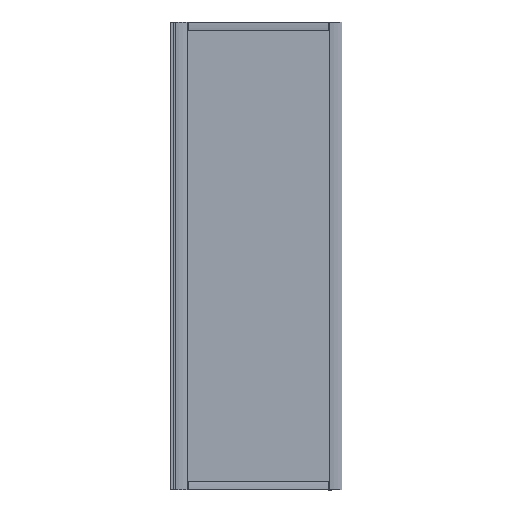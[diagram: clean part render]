
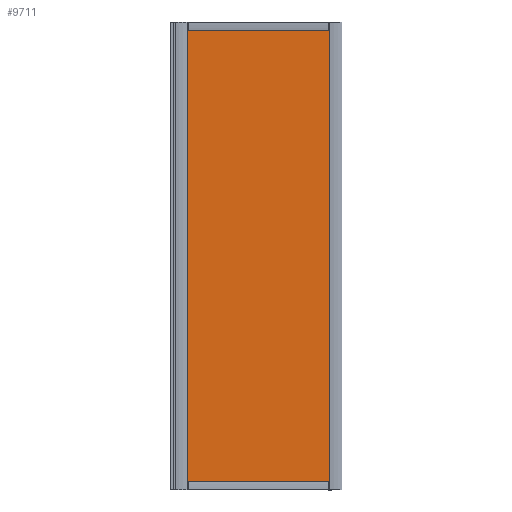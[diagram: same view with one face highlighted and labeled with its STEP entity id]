
A CAD part, left-side view. The second image highlights one B-rep face of the part: STEP entity #9711.
In plain terms, the highlighted planar face has unit normal (-1, 0, 0) as drawn and (0, -1, 0) by its records, which use the part's own axes.
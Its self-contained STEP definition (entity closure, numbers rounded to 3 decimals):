
#407=PLANE('',#10576);
#830=FACE_OUTER_BOUND('',#1368,.T.);
#1368=EDGE_LOOP('',(#7978,#7979,#7980,#7981));
#2192=LINE('',#15868,#3054);
#2195=LINE('',#15874,#3057);
#2196=LINE('',#15876,#3058);
#2197=LINE('',#15877,#3059);
#3054=VECTOR('',#12864,1797.);
#3057=VECTOR('',#12869,577.);
#3058=VECTOR('',#12870,1797.);
#3059=VECTOR('',#12871,577.);
#4443=VERTEX_POINT('',#15865);
#4444=VERTEX_POINT('',#15867);
#4446=VERTEX_POINT('',#15873);
#4447=VERTEX_POINT('',#15875);
#5687=EDGE_CURVE('',#4444,#4443,#2192,.T.);
#5690=EDGE_CURVE('',#4443,#4446,#2195,.T.);
#5691=EDGE_CURVE('',#4447,#4446,#2196,.T.);
#5692=EDGE_CURVE('',#4444,#4447,#2197,.T.);
#7978=ORIENTED_EDGE('',*,*,#5690,.T.);
#7979=ORIENTED_EDGE('',*,*,#5691,.F.);
#7980=ORIENTED_EDGE('',*,*,#5692,.F.);
#7981=ORIENTED_EDGE('',*,*,#5687,.T.);
#9711=ADVANCED_FACE('',(#830),#407,.T.);
#10576=AXIS2_PLACEMENT_3D('',#15872,#12867,#12868);
#12864=DIRECTION('',(0.,0.,1.));
#12867=DIRECTION('center_axis',(0.,-1.,0.));
#12868=DIRECTION('ref_axis',(0.,0.,-1.));
#12869=DIRECTION('',(-1.,0.,0.));
#12870=DIRECTION('',(0.,0.,1.));
#12871=DIRECTION('',(-1.,0.,0.));
#15865=CARTESIAN_POINT('',(541.792,9.931,1797.));
#15867=CARTESIAN_POINT('',(541.792,9.931,0.));
#15868=CARTESIAN_POINT('',(541.792,9.931,0.));
#15872=CARTESIAN_POINT('Origin',(541.792,9.931,0.));
#15873=CARTESIAN_POINT('',(-35.208,9.931,1797.));
#15874=CARTESIAN_POINT('',(541.792,9.931,1797.));
#15875=CARTESIAN_POINT('',(-35.208,9.931,0.));
#15876=CARTESIAN_POINT('',(-35.208,9.931,0.));
#15877=CARTESIAN_POINT('',(541.792,9.931,0.));
